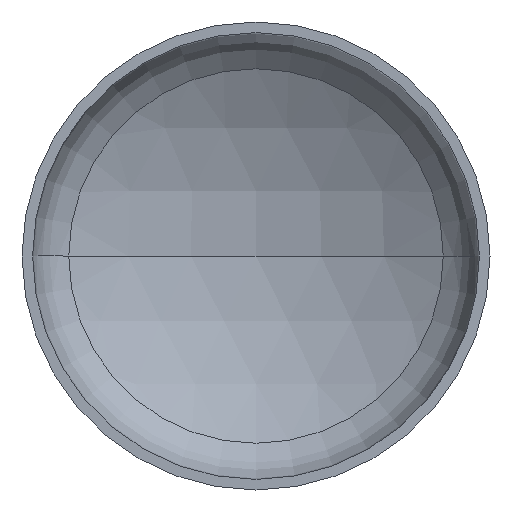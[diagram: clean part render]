
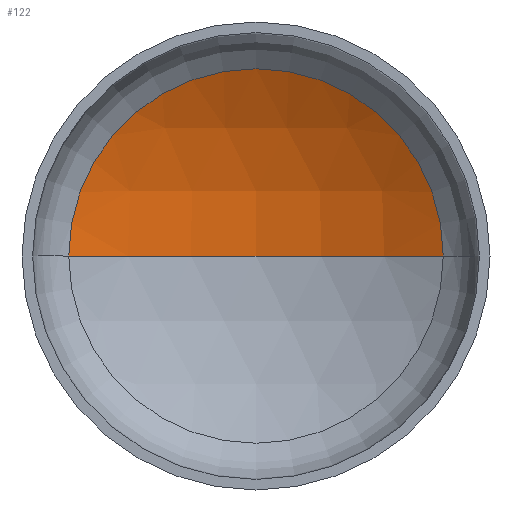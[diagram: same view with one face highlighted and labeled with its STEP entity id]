
A CAD part, front view. The second image highlights one B-rep face of the part: STEP entity #122.
In plain terms, the highlighted spherical face has radius 3600 mm.
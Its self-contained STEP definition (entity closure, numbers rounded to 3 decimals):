
#27 = AXIS2_PLACEMENT_3D ( 'NONE', #300, #133, #136 ) ;
#30 = AXIS2_PLACEMENT_3D ( 'NONE', #192, #371, #139 ) ;
#39 = AXIS2_PLACEMENT_3D ( 'NONE', #120, #127, #121 ) ;
#40 = ORIENTED_EDGE ( 'NONE', *, *, #335, .T. ) ;
#73 = AXIS2_PLACEMENT_3D ( 'NONE', #344, #181, #343 ) ;
#99 = VERTEX_POINT ( 'NONE', #307 ) ;
#101 = CARTESIAN_POINT ( 'NONE',  ( 0., 1159.485, 0. ) ) ;
#120 = CARTESIAN_POINT ( 'NONE',  ( 0., 676.819, 0. ) ) ;
#121 = DIRECTION ( 'NONE',  ( 1., 0., 0. ) ) ;
#122 = ADVANCED_FACE ( 'NONE', ( #196 ), #132, .F. ) ;
#127 = DIRECTION ( 'NONE',  ( 0., -1., 0. ) ) ;
#132 = SPHERICAL_SURFACE ( 'NONE', #73, 3600. ) ;
#133 = DIRECTION ( 'NONE',  ( 0., 0., 1. ) ) ;
#136 = DIRECTION ( 'NONE',  ( 1., 0., 0. ) ) ;
#139 = DIRECTION ( 'NONE',  ( -1., 0., 0. ) ) ;
#148 = CIRCLE ( 'NONE', #27, 3600. ) ;
#177 = VERTEX_POINT ( 'NONE', #198 ) ;
#181 = DIRECTION ( 'NONE',  ( 0., 0., -1. ) ) ;
#192 = CARTESIAN_POINT ( 'NONE',  ( 0., -2440.515, 0. ) ) ;
#196 = FACE_OUTER_BOUND ( 'NONE', #231, .T. ) ;
#198 = CARTESIAN_POINT ( 'NONE',  ( -1800.62, 676.819, 0. ) ) ;
#228 = CIRCLE ( 'NONE', #30, 3600. ) ;
#231 = EDGE_LOOP ( 'NONE', ( #308, #302, #40 ) ) ;
#300 = CARTESIAN_POINT ( 'NONE',  ( 0., -2440.515, 0. ) ) ;
#302 = ORIENTED_EDGE ( 'NONE', *, *, #342, .T. ) ;
#307 = CARTESIAN_POINT ( 'NONE',  ( 1800.62, 676.819, 0. ) ) ;
#308 = ORIENTED_EDGE ( 'NONE', *, *, #345, .F. ) ;
#335 = EDGE_CURVE ( 'NONE', #99, #177, #354, .T. ) ;
#342 = EDGE_CURVE ( 'NONE', #356, #99, #228, .T. ) ;
#343 = DIRECTION ( 'NONE',  ( -1., 0., 0. ) ) ;
#344 = CARTESIAN_POINT ( 'NONE',  ( 0., -2440.515, 0. ) ) ;
#345 = EDGE_CURVE ( 'NONE', #356, #177, #148, .T. ) ;
#354 = CIRCLE ( 'NONE', #39, 1800.62 ) ;
#356 = VERTEX_POINT ( 'NONE', #101 ) ;
#371 = DIRECTION ( 'NONE',  ( 0., 0., -1. ) ) ;
